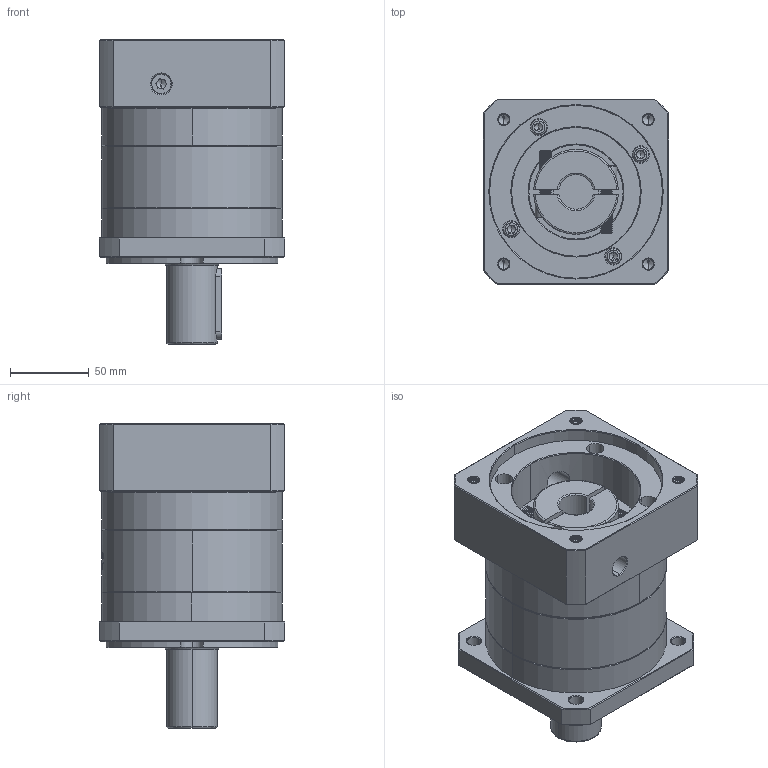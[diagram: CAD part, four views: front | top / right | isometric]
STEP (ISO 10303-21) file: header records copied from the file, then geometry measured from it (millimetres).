
FILE_DESCRIPTION (( 'STEP AP214' ), '1' );
FILE_NAME ('ZF120A-D32-L1-P2-22-110-130-M8.step', '2023-08-27T04:43:47', ( '' ), ( '' ), 'SwSTEP 2.0', 'SolidWorks 2016', '' );
FILE_SCHEMA (( 'AUTOMOTIVE_DESIGN' ));
Length unit declared in the file: millimetre
Products named in the file (1): ZF120A-D32-L1-P2-22-110-130-M8
Bounding box: 118 x 118 x 193.5 mm (x, y, z)
Volume: 1458950.5 mm3; surface area: 167513.9 mm2
Topology: 6 solids, 6 shells, 2235 faces, 5956 edges, 3826 vertices
Faces by surface type: plane 1034, bspline 439, cylinder 422, cone 340
Entity records: 123729 total; most frequent: CARTESIAN_POINT 48944, ORIENTED_EDGE 11852, DIRECTION 8590, EDGE_CURVE 5926, VERTEX_POINT 3826, LINE 3108, VECTOR 3108, AXIS2_PLACEMENT_3D 2741
